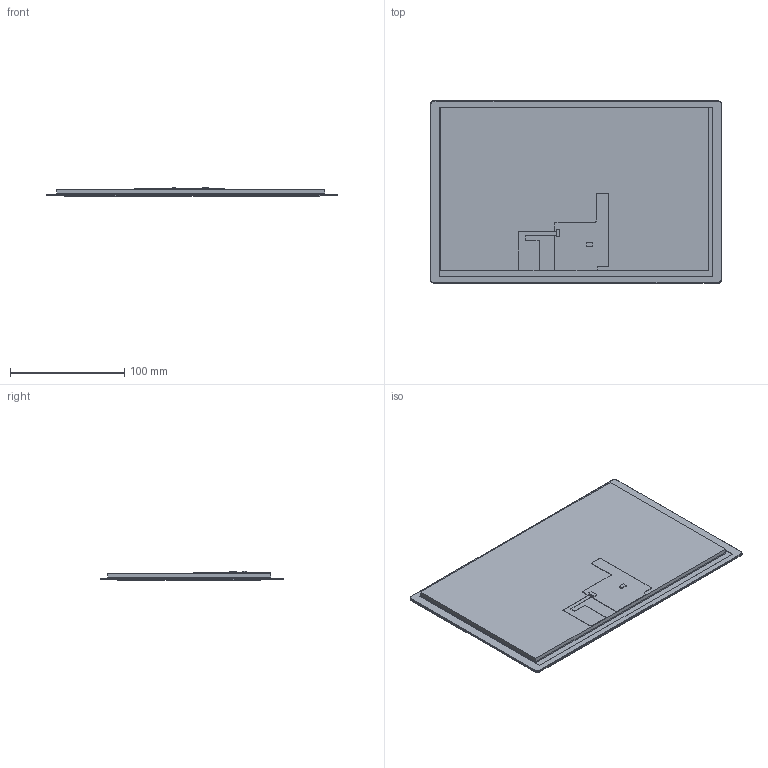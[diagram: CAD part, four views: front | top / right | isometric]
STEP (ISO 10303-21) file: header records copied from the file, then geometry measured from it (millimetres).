
FILE_DESCRIPTION(/* description */ (''),/* implementation_level */ '2;1');
FILE_NAME(/* name */ 'SDWb101C84C_stp.stp',/* time_stamp */ '2024-06-17T10:34:48+08:00',/* author */ (''),/* organization */ (''),/* preprocessor_version */ 'ST-DEVELOPER v16',/* originating_system */ 'SIEMENS PLM Software NX 10.0',/* authorisation */ '');
FILE_SCHEMA (('AP203_CONFIGURATION_CONTROLLED_3D_DESIGN_OF_MECHANICAL_PARTS_AND_ASSEMBLIES_MIM_LF { 1 0 10303 403 2 1 2}'));
Length unit declared in the file: millimetre
Products named in the file (1): SDWb101C84C_stp
Bounding box: 255.9 x 159.9 x 7.91 mm (x, y, z)
Volume: 208409.6 mm3; surface area: 296369 mm2
Topology: 10 solids, 10 shells, 87 faces, 201 edges, 134 vertices
Faces by surface type: plane 75, cylinder 9, extrusion 3
Entity records: 3267 total; most frequent: CARTESIAN_POINT 826, ORIENTED_EDGE 398, DIRECTION 336, EDGE_CURVE 199, VERTEX_POINT 134, VECTOR 130, LINE 127, AXIS2_PLACEMENT_3D 103
